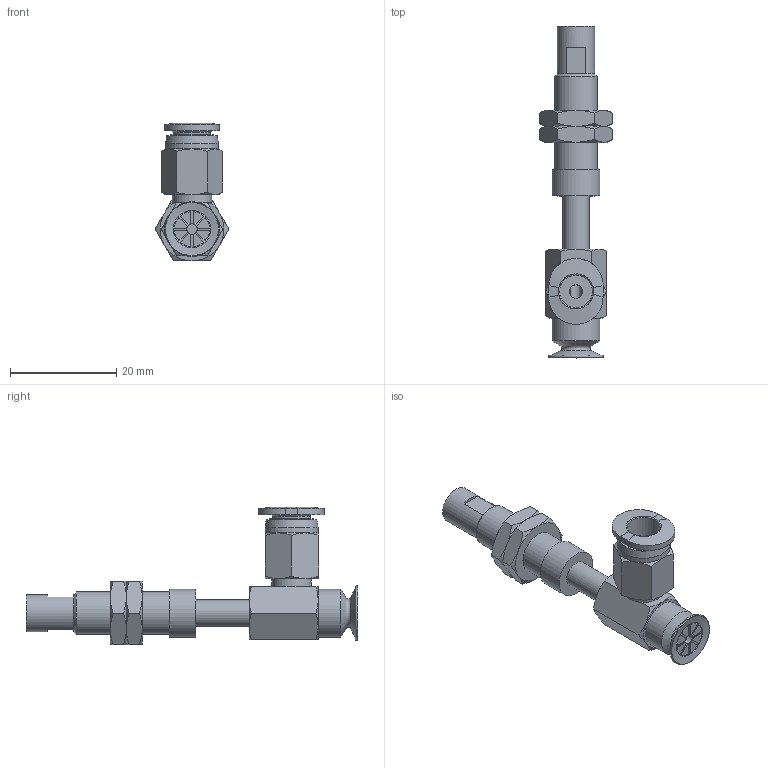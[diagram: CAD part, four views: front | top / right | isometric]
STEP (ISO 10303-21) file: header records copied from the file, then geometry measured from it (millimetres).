
FILE_DESCRIPTION(('STEP AP203'),'1');
FILE_NAME('-O.stp','2025-02-11T07:19:59',(' '),(' '),'Spatial InterOp 3D',' ',' ');
FILE_SCHEMA(('CONFIG_CONTROL_DESIGN'));
Length unit declared in the file: millimetre
Products named in the file (7): BNABPAYS-10B-10-※-O; NAPAYS-10A-10--M; NAPAYS-10A-10--F; Nut-10A-S; CONNECTOR-10A-10-PA; BPAG-10B-※_3D; PC-C_06-M5
Assembly tree (7 placements, depth 2):
  BNABPAYS-10B-10-※-O
    NAPAYS-10A-10--M
    NAPAYS-10A-10--F
    Nut-10A-S  x2
    CONNECTOR-10A-10-PA
    BPAG-10B-※_3D
    PC-C_06-M5
Bounding box: 13.86 x 62.5 x 25.98 mm (x, y, z)
Volume: 3522.5 mm3; surface area: 5331.1 mm2
Topology: 6 solids, 9 shells, 214 faces, 472 edges, 290 vertices
Faces by surface type: plane 92, cone 67, cylinder 35, torus 13, bspline 4, revolution 3
Full cylindrical faces by diameter (mm): 2 x2, 4 x4, 4.134 x2, 5 x4, 6 x2, 7 x3, 7.188 x2, 7.4 x1, 8 x1, 8.2 x1, 9 x2, 10 x1
Entity records: 5738 total; most frequent: CARTESIAN_POINT 1508, DIRECTION 815, ORIENTED_EDGE 716, EDGE_CURVE 360, AXIS2_PLACEMENT_3D 345, EDGE_LOOP 272, VERTEX_POINT 252, FACE_OUTER_BOUND 168
